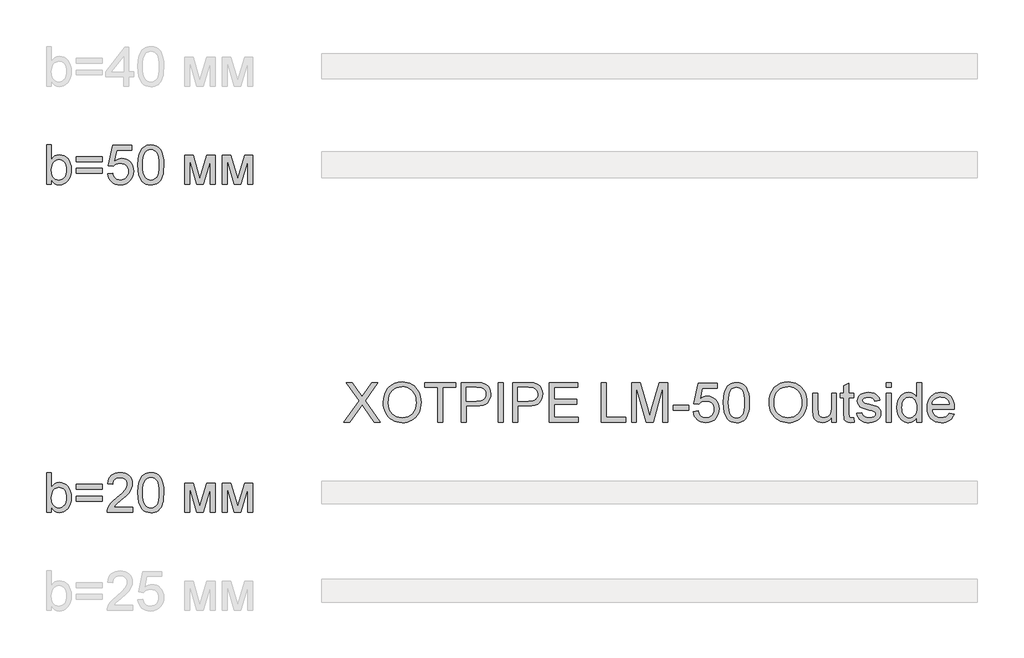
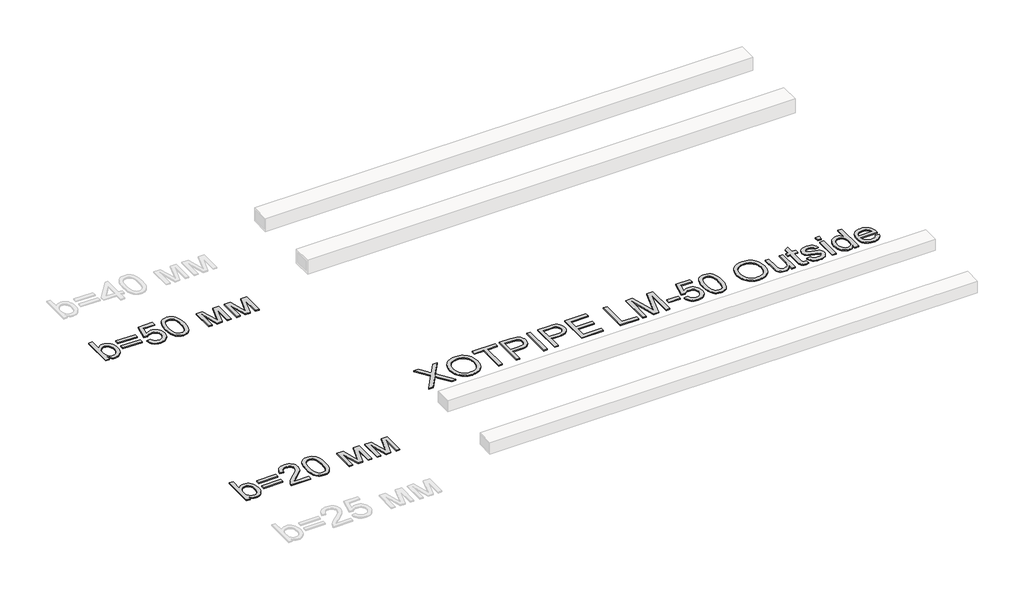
# One storey, part 70 of 86: 3 proxies.
"""IFC4 building model written with IfcOpenShell, lengths in millimetres."""

import ifcopenshell
import ifcopenshell.guid

model = None  # the IFC model being written
_history = None  # IfcOwnerHistory: only IFC2X3 demands one
_inside = {}  # id of a spatial element -> (the spatial element, [elements in it])
_under = {}  # id of a project, library or spatial element -> (it, [spatial elements below it])
_declared = {}  # id of a project -> (the project, [libraries it declares])
_typed = {}  # id of a type object -> (the type object, [elements of that type])
_made_of = {}  # id of a material, layer set ... -> (it, [elements and type objects made of it])


def new_model(schema):
    """Start an empty IFC model of exactly this schema.

    Asked for "IFC4X3", IfcOpenShell would pick the latest addendum, in which some entities
    have other attributes; the version numbers below select the first issue.
    IFC2X3 requires an IfcOwnerHistory on every rooted entity: one is made here for all.
    """
    global model, _history
    if schema == "IFC4X3":
        model = ifcopenshell.file(schema_version=(4, 3, 0, 0))
    else:
        model = ifcopenshell.file(schema=schema)
    _inside.clear()
    _under.clear()
    _declared.clear()
    _typed.clear()
    _made_of.clear()
    _history = None
    if model.schema == "IFC2X3":
        org = make("IfcOrganization", Name="unknown")
        user = make(
            "IfcPersonAndOrganization",
            ThePerson=make("IfcPerson", FamilyName="unknown"),
            TheOrganization=org,
        )
        app = make(
            "IfcApplication",
            ApplicationDeveloper=org,
            Version="unknown",
            ApplicationFullName="unknown",
            ApplicationIdentifier="unknown",
        )
        _history = make(
            "IfcOwnerHistory",
            OwningUser=user,
            OwningApplication=app,
            ChangeAction="ADDED",
            CreationDate=0,
        )
    return model


def make(cls, **values):
    """One entity of the class cls with the attributes given. An attribute that is None is left unset."""
    return model.create_entity(
        cls, **{name: value for name, value in values.items() if value is not None}
    )


def rooted(cls, **values):
    """An entity with a GlobalId (a new one), such as an element, a storey or a relation."""
    return make(cls, GlobalId=ifcopenshell.guid.new(), OwnerHistory=_history, **values)


def si_unit(unit_type, name, prefix=None):
    """IfcSIUnit, for example si_unit("LENGTHUNIT", "METRE", prefix="MILLI")."""
    return make("IfcSIUnit", UnitType=unit_type, Prefix=prefix, Name=name)


def assignment(units):
    """IfcUnitAssignment: the units of a project."""
    return None if units is None else make("IfcUnitAssignment", Units=units)


def point(xyz):
    """IfcCartesianPoint."""
    return None if xyz is None else make("IfcCartesianPoint", Coordinates=xyz)


def direction(xyz):
    """IfcDirection."""
    return None if xyz is None else make("IfcDirection", DirectionRatios=xyz)


def frame(location, z_axis=None, x_axis=None):
    """IfcAxis2Placement3D, a coordinate frame: its origin and axes. An axis left out is left unset."""
    return make(
        "IfcAxis2Placement3D",
        Location=point(location),
        Axis=direction(z_axis),
        RefDirection=direction(x_axis),
    )


def origin():
    """The frame at (0, 0, 0) with its axes left unset."""
    return frame((0.0, 0.0, 0.0))


def origin_with_axes():
    """The frame at (0, 0, 0) with the z axis (0, 0, 1) and the x axis (1, 0, 0) written out."""
    return frame((0.0, 0.0, 0.0), z_axis=(0.0, 0.0, 1.0), x_axis=(1.0, 0.0, 0.0))


def place(relative_to, where):
    """IfcLocalPlacement: puts the frame where relative to a parent placement (None: the world)."""
    return make(
        "IfcLocalPlacement", PlacementRelTo=relative_to, RelativePlacement=where
    )


def context(
    kind, dimensions, precision=None, world=None, true_north=None, identifier=None
):
    """IfcGeometricRepresentationContext, for example the 3D "Model" context."""
    return make(
        "IfcGeometricRepresentationContext",
        ContextIdentifier=identifier,
        ContextType=kind,
        CoordinateSpaceDimension=dimensions,
        Precision=precision,
        WorldCoordinateSystem=world,
        TrueNorth=true_north,
    )


def project(units=None, contexts=None):
    """IfcProject with its units and contexts."""
    return rooted(
        "IfcProject",
        Name="project",
        RepresentationContexts=contexts,
        UnitsInContext=assignment(units),
    )


def spatial(cls, under=None, at=None, **own):
    """A site, building, storey or space (cls), placed at a placement, below another one or the project."""
    s = rooted(cls, ObjectPlacement=at, **own)
    if under is not None:
        _under.setdefault(under.id(), (under, []))[1].append(s)
    return s


def polyline(points):
    """IfcPolyline through the points."""
    return make("IfcPolyline", Points=[point(p) for p in points])


def outline(outer, holes=None, kind="AREA"):
    """IfcArbitraryClosedProfileDef: a profile drawn as a closed curve; with holes, ...WithVoids."""
    if holes is None:
        return make("IfcArbitraryClosedProfileDef", ProfileType=kind, OuterCurve=outer)
    return make(
        "IfcArbitraryProfileDefWithVoids",
        ProfileType=kind,
        OuterCurve=outer,
        InnerCurves=holes,
    )


def extrude(swept, where, along, depth):
    """IfcExtrudedAreaSolid: the profile swept, set in the frame where, extruded along a direction by depth."""
    return make(
        "IfcExtrudedAreaSolid",
        SweptArea=swept,
        Position=where,
        ExtrudedDirection=direction(along),
        Depth=depth,
    )


def shape(context_of_items, identifier, shape_type, items):
    """IfcShapeRepresentation: the items that make up one representation, for example the "Body"."""
    return make(
        "IfcShapeRepresentation",
        ContextOfItems=context_of_items,
        RepresentationIdentifier=identifier,
        RepresentationType=shape_type,
        Items=items,
    )


def made_of(thing, what):
    """Note that an element or type object is made of a material, layer set ...; save() writes the relation."""
    if what is not None:
        _made_of.setdefault(what.id(), (what, []))[1].append(thing)
    return thing


def element(
    cls,
    number,
    at=None,
    inside=None,
    cuts=None,
    type_object=None,
    material=None,
    context=None,
    identifier="Body",
    shape_type=None,
    held_by="IfcProductDefinitionShape",
    body=None,
    shapes=None,
    **own,
):
    """One element of the class cls, such as IfcWall. Its Tag is "e" and its number.

    at: its placement. inside: the storey or other place that contains it. cuts: it is an
    opening in that element (IfcRelVoidsElement). A single representation is given by context,
    identifier, shape_type and body (its items); several are given by shapes. held_by: the class
    of the entity that holds the representations. save() writes the other relations.
    """
    e = rooted(cls, Tag="e%d" % number, ObjectPlacement=at, **own)
    if body is not None:
        shapes = [shape(context, identifier, shape_type, body)]
    if shapes is not None:
        e.Representation = make(held_by, Representations=shapes)
    if inside is not None:
        _inside.setdefault(inside.id(), (inside, []))[1].append(e)
    if cuts is not None:
        rooted(
            "IfcRelVoidsElement", RelatingBuildingElement=cuts, RelatedOpeningElement=e
        )
    if type_object is not None:
        _typed.setdefault(type_object.id(), (type_object, []))[1].append(e)
    return made_of(e, material)


def aggregate(whole, parts):
    """IfcRelAggregates: a whole, such as a stair, and the parts it consists of."""
    return rooted("IfcRelAggregates", RelatingObject=whole, RelatedObjects=parts)


def save(model, path):
    """Write the relations noted so far, then the file.

    IfcRelAggregates (storeys below a building ...), IfcRelContainedInSpatialStructure (elements
    in a storey), IfcRelDefinesByType, IfcRelAssociatesMaterial and IfcRelDeclares: one each for
    every whole, place, type object, material and project.
    """
    for whole, parts in _under.values():
        aggregate(whole, parts)
    for where, things in _inside.values():
        rooted(
            "IfcRelContainedInSpatialStructure",
            RelatedElements=things,
            RelatingStructure=where,
        )
    for kind, things in _typed.values():
        rooted("IfcRelDefinesByType", RelatedObjects=things, RelatingType=kind)
    for what, things in _made_of.values():
        rooted("IfcRelAssociatesMaterial", RelatedObjects=things, RelatingMaterial=what)
    for by, libraries in _declared.values():
        rooted("IfcRelDeclares", RelatingContext=by, RelatedDefinitions=libraries)
    model.write(path)


model = new_model("IFC4")

# Units and contexts
model_context = context("Model", 3, world=origin())
ifc_project = project(units=[si_unit("LENGTHUNIT", "METRE", prefix="MILLI")], contexts=[model_context])

# Site, building, storey
site = spatial("IfcSite", under=ifc_project)
building = spatial("IfcBuilding", under=site)
storey = spatial("IfcBuildingStorey", under=building, Name="Уровень 1", Elevation=0.0)

# Proxies
placement = place(None, origin())
element("IfcBuildingElementProxy", 1, Name="Текст модели 1", ObjectType="Текст модели 1", at=placement, inside=storey, context=model_context, shape_type="SweptSolid", body=[
    extrude(outline(polyline([(89771.0068445, 63169.2937088), (89695.6646119, 63169.2937088), (89695.6646119, 63772.0315697), (89771.0068445, 63772.0315697), (89771.0068445, 63548.5064694), (89795.7836969, 63580.3742473), (89823.7611226, 63603.1369457), (89854.9391217, 63616.7945648), (89889.3176942, 63621.3471045), (89928.1292447, 63617.2452202), (89964.8070796, 63604.9395675), (89997.2542716, 63585.2026984), (90023.3738932, 63558.8071653), (90043.8465263, 63526.0104854), (90059.3527524, 63487.0701762), (90069.1200193, 63443.6049185), (90072.375775, 63397.233393), (90069.0050562, 63343.7249568), (90058.8928999, 63296.6544555), (90042.039306, 63256.0218892), (90018.4442745, 63221.8272577), (89990.1219594, 63194.7235517), (89959.0865146, 63175.3637617), (89925.33794, 63163.7478877), (89888.8762358, 63159.8759297), (89853.3664262, 63164.8699278), (89821.8849245, 63179.8519221), (89794.4317306, 63204.8219125), (89771.0068445, 63239.7798991), (89771.0068445, 63169.2937088)]), holes=[polyline([(89771.0068445, 63393.7017259), (89776.1571925, 63330.8674811), (89782.5951274, 63307.065516), (89791.6082363, 63288.3403224), (89809.8643803, 63265.0993774), (89831.0819744, 63248.4987024), (89855.2610185, 63238.5382973), (89882.4015127, 63235.2181623), (89904.9342849, 63237.6645776), (89925.8851645, 63245.0038234), (89945.2541516, 63257.2358997), (89963.041246, 63274.3608066), (89977.9128757, 63296.3325588), (89988.5354683, 63323.105171), (89994.9090239, 63354.6786432), (89997.0335424, 63391.0529755), (89994.9963958, 63428.1170865), (89988.8849562, 63459.9940614), (89978.6992234, 63486.6839001), (89964.4391976, 63508.1866028), (89947.2912981, 63524.7320955), (89928.4419444, 63536.5503046), (89907.8911364, 63543.64123), (89885.6388742, 63546.0048719), (89863.106102, 63543.5584566), (89842.1552224, 63536.2192108), (89822.7862354, 63523.9871344), (89804.9991409, 63506.8622276), (89790.1275112, 63485.1112046), (89779.5049186, 63459.00078), (89773.1313631, 63428.5309538), (89771.0068445, 63393.7017259)])]), origin_with_axes(), (0.0, 0.0, 1.0), 20.0),
    extrude(outline(polyline([(90543.2647288, 63517.7515346), (90147.7180076, 63517.7515346), (90147.7180076, 63593.0937672), (90543.2647288, 63593.0937672), (90543.2647288, 63517.7515346)])), origin_with_axes(), (0.0, 0.0, 1.0), 20.0),
    extrude(outline(polyline([(90543.2647288, 63338.8137322), (90147.7180076, 63338.8137322), (90147.7180076, 63414.1559648), (90543.2647288, 63414.1559648), (90543.2647288, 63338.8137322)])), origin_with_axes(), (0.0, 0.0, 1.0), 20.0),
    extrude(outline(polyline([(90628.0247405, 63329.3959531), (90703.3669731, 63338.8137322), (90708.9955676, 63314.5933013), (90717.1993361, 63293.5826409), (90727.9782786, 63275.7817508), (90741.332395, 63261.1906312), (90757.2340943, 63249.8276761), (90775.6557852, 63241.7112795), (90796.5974677, 63236.8414416), (90820.059142, 63235.2181623), (90848.7539376, 63237.4760381), (90874.0642189, 63244.2496653), (90895.9899858, 63255.539044), (90914.5312383, 63271.3441743), (90929.2741093, 63290.8833067), (90939.8047314, 63313.3746922), (90946.1231047, 63338.8183307), (90948.2292291, 63367.2142222), (90946.2564619, 63394.0512138), (90940.3381603, 63417.9083611), (90930.4743243, 63438.7856644), (90916.6649539, 63456.6831234), (90898.8640639, 63471.0397183), (90877.0256689, 63481.2944289), (90851.1497691, 63487.4472553), (90821.2363644, 63489.4981974), (90784.6872881, 63486.2240476), (90755.0911816, 63476.4015984), (90731.4547634, 63461.3552248), (90712.7847522, 63442.409302), (90637.4425196, 63451.8270811), (90703.3669731, 63762.6137906), (90995.3181245, 63762.6137906), (90995.3181245, 63687.271558), (90764.2882315, 63687.271558), (90732.0617687, 63521.2832018), (90758.6504399, 63540.3394891), (90785.8829046, 63553.951123), (90813.7591628, 63562.1181032), (90842.2792145, 63564.84043), (90878.970845, 63561.4651127), (90912.6734343, 63551.3391608), (90943.3869823, 63534.4625743), (90971.1114892, 63510.8353531), (90994.0627272, 63481.9014342), (91010.4564686, 63449.1047543), (91020.2927134, 63412.4453135), (91023.5714617, 63371.9231117), (91020.6192087, 63332.8908321), (91011.7624497, 63296.5808791), (90997.0011846, 63262.993253), (90976.3354135, 63232.1279536), (90945.0286557, 63200.5176931), (90908.4979736, 63177.9389357), (90866.7433672, 63164.3916812), (90819.7648364, 63159.8759297), (90780.884308, 63162.777599), (90745.7653731, 63171.4826067), (90714.4080315, 63185.9909529), (90686.8122833, 63206.3026375), (90663.8518483, 63231.4059852), (90646.4004462, 63260.2893203), (90634.4580769, 63292.952643), (90628.0247405, 63329.3959531)])), origin_with_axes(), (0.0, 0.0, 1.0), 20.0),
    extrude(outline(polyline([(91089.4959153, 63465.8065969), (91095.0325393, 63562.2836501), (91101.9533193, 63603.1967265), (91111.6424114, 63639.2261694), (91124.0584287, 63670.6662845), (91139.1599846, 63697.8113772), (91156.9470791, 63720.6614476), (91177.4197121, 63739.2164957), (91200.6468616, 63753.5730906), (91226.6975054, 63763.8278012), (91255.5716435, 63769.9806276), (91287.2692759, 63772.0315697), (91333.6959837, 63767.1755274), (91375.2666491, 63752.6074004), (91410.0314977, 63728.8974058), (91436.0407547, 63696.6157607), (91455.6856533, 63656.0383766), (91471.3574262, 63607.4411651), (91481.6213339, 63545.7289604), (91485.0426365, 63465.8065969), (91479.5611947, 63369.8813667), (91472.7093926, 63329.106246), (91463.1168696, 63293.1227884), (91450.7974212, 63261.6688778), (91435.7648432, 63234.4823983), (91418.0191355, 63211.56335), (91397.560298, 63192.9117329), (91374.3055574, 63178.458569), (91348.1721402, 63168.1348805), (91319.1600463, 63161.9406674), (91287.2692759, 63159.8759297), (91245.7721868, 63163.4627792), (91208.9839873, 63174.2233275), (91176.9046773, 63192.1575748), (91149.5342569, 63217.265521), (91123.2674824, 63262.6529621), (91104.5055007, 63319.2056218), (91093.2483116, 63386.9235001), (91089.4959153, 63465.8065969)]), holes=[polyline([(91164.8381479, 63465.9537497), (91167.0454398, 63400.456959), (91173.6673158, 63347.440565), (91184.7037756, 63306.9045676), (91200.1548194, 63278.848967), (91218.8432248, 63259.7604899), (91239.5917693, 63246.1258635), (91262.400453, 63237.9450876), (91287.2692759, 63235.2181623), (91312.1380987, 63237.9542847), (91334.9467824, 63246.1626517), (91355.695327, 63259.8432634), (91374.3837323, 63278.9961198), (91389.8347761, 63307.0977057), (91400.871236, 63347.624506), (91407.4931119, 63400.5765206), (91409.7004039, 63465.9537497), (91407.5666883, 63529.7168965), (91401.1655416, 63581.79979), (91390.4969637, 63622.2024301), (91375.5609547, 63650.9248169), (91357.185249, 63670.9467945), (91336.1975812, 63685.248207), (91312.5979512, 63693.8290546), (91286.3863591, 63696.6893371), (91261.6462949, 63694.1693454), (91239.2238873, 63686.6093704), (91219.1191363, 63674.0094121), (91201.3320418, 63656.3694704), (91185.3659632, 63625.0995008), (91173.9616213, 63582.9402242), (91167.1190162, 63529.8916405), (91164.8381479, 63465.9537497)])]), origin_with_axes(), (0.0, 0.0, 1.0), 20.0),
    extrude(outline(polyline([(91805.2471251, 63611.9293254), (91934.8887402, 63611.9293254), (92034.8054901, 63257.5853876), (92142.5213382, 63611.9293254), (92266.7182998, 63611.9293254), (92266.7182998, 63169.2937088), (92191.3760672, 63169.2937088), (92191.3760672, 63525.6977857), (92083.0716078, 63169.2937088), (91984.1849275, 63169.2937088), (91880.5893577, 63542.7675103), (91880.5893577, 63169.2937088), (91805.2471251, 63169.2937088), (91805.2471251, 63611.9293254)])), origin_with_axes(), (0.0, 0.0, 1.0), 20.0),
    extrude(outline(polyline([(92379.7316487, 63611.9293254), (92509.3732638, 63611.9293254), (92609.2900137, 63257.5853876), (92717.0058619, 63611.9293254), (92841.2028235, 63611.9293254), (92841.2028235, 63169.2937088), (92765.8605909, 63169.2937088), (92765.8605909, 63525.6977857), (92657.5561315, 63169.2937088), (92558.6694512, 63169.2937088), (92455.0738813, 63542.7675103), (92455.0738813, 63169.2937088), (92379.7316487, 63169.2937088), (92379.7316487, 63611.9293254)])), origin_with_axes(), (0.0, 0.0, 1.0), 20.0),
])
element("IfcBuildingElementProxy", 2, Name="Текст модели 1", ObjectType="Текст модели 1", at=placement, inside=storey, context=model_context, shape_type="SweptSolid", body=[
    extrude(outline(polyline([(89771.0068445, 58169.2937088), (89695.6646119, 58169.2937088), (89695.6646119, 58772.0315697), (89771.0068445, 58772.0315697), (89771.0068445, 58548.5064694), (89795.7836969, 58580.3742473), (89823.7611226, 58603.1369457), (89854.9391217, 58616.7945648), (89889.3176942, 58621.3471045), (89928.1292447, 58617.2452202), (89964.8070796, 58604.9395675), (89997.2542716, 58585.2026984), (90023.3738932, 58558.8071653), (90043.8465263, 58526.0104854), (90059.3527524, 58487.0701762), (90069.1200193, 58443.6049185), (90072.375775, 58397.233393), (90069.0050562, 58343.7249568), (90058.8928999, 58296.6544555), (90042.039306, 58256.0218892), (90018.4442745, 58221.8272577), (89990.1219594, 58194.7235517), (89959.0865146, 58175.3637617), (89925.33794, 58163.7478877), (89888.8762358, 58159.8759297), (89853.3664262, 58164.8699278), (89821.8849245, 58179.8519221), (89794.4317306, 58204.8219125), (89771.0068445, 58239.7798991), (89771.0068445, 58169.2937088)]), holes=[polyline([(89771.0068445, 58393.7017259), (89776.1571925, 58330.8674811), (89782.5951274, 58307.065516), (89791.6082363, 58288.3403224), (89809.8643803, 58265.0993774), (89831.0819744, 58248.4987024), (89855.2610185, 58238.5382973), (89882.4015127, 58235.2181623), (89904.9342849, 58237.6645776), (89925.8851645, 58245.0038234), (89945.2541516, 58257.2358997), (89963.041246, 58274.3608066), (89977.9128757, 58296.3325588), (89988.5354683, 58323.105171), (89994.9090239, 58354.6786432), (89997.0335424, 58391.0529755), (89994.9963958, 58428.1170865), (89988.8849562, 58459.9940614), (89978.6992234, 58486.6839001), (89964.4391976, 58508.1866028), (89947.2912981, 58524.7320955), (89928.4419444, 58536.5503046), (89907.8911364, 58543.64123), (89885.6388742, 58546.0048719), (89863.106102, 58543.5584566), (89842.1552224, 58536.2192108), (89822.7862354, 58523.9871344), (89804.9991409, 58506.8622276), (89790.1275112, 58485.1112046), (89779.5049186, 58459.00078), (89773.1313631, 58428.5309538), (89771.0068445, 58393.7017259)])]), origin_with_axes(), (0.0, 0.0, 1.0), 20.0),
    extrude(outline(polyline([(90543.2647288, 58517.7515346), (90147.7180076, 58517.7515346), (90147.7180076, 58593.0937672), (90543.2647288, 58593.0937672), (90543.2647288, 58517.7515346)])), origin_with_axes(), (0.0, 0.0, 1.0), 20.0),
    extrude(outline(polyline([(90543.2647288, 58338.8137322), (90147.7180076, 58338.8137322), (90147.7180076, 58414.1559648), (90543.2647288, 58414.1559648), (90543.2647288, 58338.8137322)])), origin_with_axes(), (0.0, 0.0, 1.0), 20.0),
    extrude(outline(polyline([(91014.1536826, 58244.6359414), (91014.1536826, 58169.2937088), (90618.6069614, 58169.2937088), (90620.2624304, 58195.8180007), (90626.7003653, 58221.2386465), (90645.2784061, 58261.8344247), (90672.4648855, 58301.2161923), (90711.7914708, 58342.4373698), (90766.7898291, 58388.5513779), (90848.09175, 58460.7666136), (90896.8729026, 58514.0727147), (90911.1007387, 58535.8513288), (90921.2634789, 58557.3356373), (90927.3611229, 58578.5256402), (90929.393671, 58599.4213376), (90927.4760861, 58619.0800317), (90921.7233314, 58637.1476362), (90912.1354069, 58653.624151), (90898.7123126, 58668.5095763), (90882.1990095, 58680.8382216), (90863.3404587, 58689.6443969), (90842.1366602, 58694.928102), (90818.587614, 58696.6893371), (90793.778572, 58694.9694888), (90771.5906891, 58689.8099438), (90752.0239655, 58681.2107021), (90735.0784011, 58669.1717638), (90721.3701983, 58654.0977991), (90711.5155593, 58636.3934781), (90705.5144843, 58616.0588008), (90703.3669731, 58593.0937672), (90628.0247405, 58602.5115463), (90634.5040621, 58641.4058703), (90646.2900816, 58675.3889696), (90663.3827988, 58704.4608442), (90685.7822137, 58728.6214943), (90712.9732917, 58747.6134023), (90744.4409979, 58761.1790508), (90780.1853322, 58769.31844), (90820.2062948, 58772.0315697), (90860.5859423, 58769.0149373), (90896.5234147, 58759.9650403), (90928.018712, 58744.8818785), (90955.0718342, 58723.7654519), (90976.7998646, 58698.1792592), (90992.3198862, 58669.6867986), (91001.6318992, 58638.2880704), (91004.7359036, 58603.9830743), (91001.3881774, 58567.9490329), (90991.3449989, 58532.5403908), (90973.5211163, 58496.5247435), (90946.8312775, 58458.6696862), (90904.2857248, 58413.4753831), (90838.8947001, 58355.4419984), (90752.2217021, 58282.9692453), (90718.2294057, 58244.6359414), (91014.1536826, 58244.6359414)])), origin_with_axes(), (0.0, 0.0, 1.0), 20.0),
    extrude(outline(polyline([(91089.4959153, 58465.8065969), (91095.0325393, 58562.2836501), (91101.9533193, 58603.1967265), (91111.6424114, 58639.2261694), (91124.0584287, 58670.6662845), (91139.1599846, 58697.8113772), (91156.9470791, 58720.6614476), (91177.4197121, 58739.2164957), (91200.6468616, 58753.5730906), (91226.6975054, 58763.8278012), (91255.5716435, 58769.9806276), (91287.2692759, 58772.0315697), (91333.6959837, 58767.1755274), (91375.2666491, 58752.6074004), (91410.0314977, 58728.8974058), (91436.0407547, 58696.6157607), (91455.6856533, 58656.0383766), (91471.3574262, 58607.4411651), (91481.6213339, 58545.7289604), (91485.0426365, 58465.8065969), (91479.5611947, 58369.8813667), (91472.7093926, 58329.106246), (91463.1168696, 58293.1227884), (91450.7974212, 58261.6688778), (91435.7648432, 58234.4823983), (91418.0191355, 58211.56335), (91397.560298, 58192.9117329), (91374.3055574, 58178.458569), (91348.1721402, 58168.1348805), (91319.1600463, 58161.9406674), (91287.2692759, 58159.8759297), (91245.7721868, 58163.4627792), (91208.9839873, 58174.2233275), (91176.9046773, 58192.1575748), (91149.5342569, 58217.265521), (91123.2674824, 58262.6529621), (91104.5055007, 58319.2056218), (91093.2483116, 58386.9235001), (91089.4959153, 58465.8065969)]), holes=[polyline([(91164.8381479, 58465.9537497), (91167.0454398, 58400.456959), (91173.6673158, 58347.440565), (91184.7037756, 58306.9045676), (91200.1548194, 58278.848967), (91218.8432248, 58259.7604899), (91239.5917693, 58246.1258635), (91262.400453, 58237.9450876), (91287.2692759, 58235.2181623), (91312.1380987, 58237.9542847), (91334.9467824, 58246.1626517), (91355.695327, 58259.8432634), (91374.3837323, 58278.9961198), (91389.8347761, 58307.0977057), (91400.871236, 58347.624506), (91407.4931119, 58400.5765206), (91409.7004039, 58465.9537497), (91407.5666883, 58529.7168965), (91401.1655416, 58581.79979), (91390.4969637, 58622.2024301), (91375.5609547, 58650.9248169), (91357.185249, 58670.9467945), (91336.1975812, 58685.248207), (91312.5979512, 58693.8290546), (91286.3863591, 58696.6893371), (91261.6462949, 58694.1693454), (91239.2238873, 58686.6093704), (91219.1191363, 58674.0094121), (91201.3320418, 58656.3694704), (91185.3659632, 58625.0995008), (91173.9616213, 58582.9402242), (91167.1190162, 58529.8916405), (91164.8381479, 58465.9537497)])]), origin_with_axes(), (0.0, 0.0, 1.0), 20.0),
    extrude(outline(polyline([(91805.2471251, 58611.9293254), (91934.8887402, 58611.9293254), (92034.8054901, 58257.5853876), (92142.5213382, 58611.9293254), (92266.7182998, 58611.9293254), (92266.7182998, 58169.2937088), (92191.3760672, 58169.2937088), (92191.3760672, 58525.6977857), (92083.0716078, 58169.2937088), (91984.1849275, 58169.2937088), (91880.5893577, 58542.7675103), (91880.5893577, 58169.2937088), (91805.2471251, 58169.2937088), (91805.2471251, 58611.9293254)])), origin_with_axes(), (0.0, 0.0, 1.0), 20.0),
    extrude(outline(polyline([(92379.7316487, 58611.9293254), (92509.3732638, 58611.9293254), (92609.2900137, 58257.5853876), (92717.0058619, 58611.9293254), (92841.2028235, 58611.9293254), (92841.2028235, 58169.2937088), (92765.8605909, 58169.2937088), (92765.8605909, 58525.6977857), (92657.5561315, 58169.2937088), (92558.6694512, 58169.2937088), (92455.0738813, 58542.7675103), (92455.0738813, 58169.2937088), (92379.7316487, 58169.2937088), (92379.7316487, 58611.9293254)])), origin_with_axes(), (0.0, 0.0, 1.0), 20.0),
])
element("IfcBuildingElementProxy", 3, Name="Текст модели 1", ObjectType="Текст модели 1", at=placement, inside=storey, context=model_context, shape_type="SweptSolid", body=[
    extrude(outline(polyline([(94231.1999655, 59543.2937088), (94463.5542337, 59871.7387541), (94268.8710818, 60146.0315697), (94359.2228998, 60146.0315697), (94468.8517344, 59991.6682845), (94495.0081443, 59952.5624284), (94505.7870867, 59931.4827901), (94549.0500094, 59992.6983541), (94657.5016215, 60146.0315697), (94749.1778147, 60146.0315697), (94554.4946629, 59870.8558373), (94786.848931, 59543.2937088), (94696.497113, 59543.2937088), (94541.6923695, 59761.6684611), (94509.4659067, 59806.9915229), (94474.0020823, 59757.2538772), (94322.8761587, 59543.2937088), (94231.1999655, 59543.2937088)])), origin_with_axes(), (0.0, 0.0, 1.0), 20.0),
    extrude(outline(polyline([(94833.9378264, 59836.7163882), (94838.9594157, 59907.4141106), (94854.0241834, 59970.000035), (94879.1321295, 60024.4741614), (94895.4522945, 60048.6693004), (94914.2832542, 60070.8364899), (94957.3714329, 60107.8546156), (95006.2905412, 60134.2961341), (95061.0405791, 60150.1610451), (95121.6215467, 60155.4493488), (95162.1713396, 60152.9661453), (95200.6793874, 60145.5165349), (95237.1456902, 60133.1005176), (95271.5702479, 60115.7180933), (95302.9873703, 60093.8934939), (95330.4313671, 60068.1509513), (95353.9022384, 60038.4904655), (95373.3999842, 60004.9120363), (95388.7222693, 59968.1790191), (95399.6667586, 59929.0547689), (95406.2334522, 59887.5392858), (95408.4223501, 59843.6325697), (95406.1184891, 59799.1464394), (95399.2069061, 59757.0699362), (95387.6876011, 59717.4030601), (95371.5605742, 59680.145811), (95351.2075028, 59646.2822733), (95327.0100646, 59616.7965314), (95298.9682595, 59591.6885853), (95267.0820875, 59570.9584348), (95232.6069461, 59554.7348388), (95196.7982324, 59543.146556), (95159.6559464, 59536.1935863), (95121.1800883, 59533.8759297), (95079.9221225, 59536.4373081), (95040.9082369, 59544.1214433), (95004.1384315, 59556.9283352), (94969.6127062, 59574.857984), (94938.2323721, 59597.2160122), (94910.8987398, 59623.3080427), (94887.6118095, 59653.1340755), (94868.3715812, 59686.6941105), (94853.3068135, 59722.64078), (94842.5462651, 59759.6267161), (94836.0899361, 59797.6519188), (94833.9378264, 59836.7163882)]), holes=[polyline([(94909.280059, 59835.9806242), (94913.046251, 59786.0314463), (94924.3448267, 59741.6924688), (94943.1757864, 59702.9636918), (94969.5391298, 59669.8451151), (95001.5862502, 59643.3208233), (95037.4685403, 59624.3749005), (95077.1860002, 59613.0073469), (95120.7386299, 59609.2181623), (95165.0362206, 59613.0441351), (95205.2227301, 59624.5220533), (95241.2981582, 59643.6519171), (95273.2625051, 59670.4337263), (95299.4327105, 59704.2512787), (95318.1257144, 59744.488372), (95329.3415167, 59791.145006), (95333.0801175, 59844.2211809), (95331.4798308, 59878.7009209), (95326.6789708, 59910.9181866), (95318.6775374, 59940.872978), (95307.4755306, 59968.5652952), (95293.1971107, 59993.6318547), (95275.9664377, 60015.7093729), (95255.7835118, 60034.7978499), (95232.6483328, 60050.8972857), (95207.2782707, 60063.6765866), (95180.3906954, 60072.8046586), (95151.9856068, 60078.2815018), (95122.063005, 60080.1071162), (95080.02329, 60076.5892446), (95041.0186015, 60066.0356298), (95005.0489394, 60048.446272), (94972.1143038, 60023.8211709), (94944.6243217, 59990.9739073), (94924.9886202, 59948.7180616), (94913.2071993, 59897.0536339), (94909.280059, 59835.9806242)])]), origin_with_axes(), (0.0, 0.0, 1.0), 20.0),
    extrude(outline(polyline([(95662.7023852, 59543.2937088), (95662.7023852, 60070.6893371), (95464.9290246, 60070.6893371), (95464.9290246, 60146.0315697), (95935.8179784, 60146.0315697), (95935.8179784, 60070.6893371), (95738.0446178, 60070.6893371), (95738.0446178, 59543.2937088), (95662.7023852, 59543.2937088)])), origin_with_axes(), (0.0, 0.0, 1.0), 20.0),
    extrude(outline(polyline([(96020.5779901, 59543.2937088), (96020.5779901, 60146.0315697), (96243.9559375, 60146.0315697), (96295.9744517, 60144.5968299), (96334.01345, 60140.2926106), (96374.1677697, 60129.5688504), (96407.221967, 60112.1128497), (96433.8382293, 60087.1336623), (96454.6787444, 60053.8403417), (96468.1432254, 60014.5689387), (96472.6313857, 59971.655504), (96469.6009578, 59934.6557723), (96460.509674, 59900.6174907), (96445.3575343, 59869.5406592), (96424.1445388, 59841.4252777), (96395.0220803, 59818.1199533), (96356.141552, 59801.473293), (96307.5029537, 59791.4852968), (96249.1062855, 59788.1559648), (96095.9202227, 59788.1559648), (96095.9202227, 59543.2937088), (96020.5779901, 59543.2937088)]), holes=[polyline([(96095.9202227, 59863.4981974), (96253.5208694, 59863.4981974), (96289.7572459, 59865.2272428), (96320.3282397, 59870.4143789), (96345.2338508, 59879.0596058), (96364.4740792, 59891.1629234), (96378.830674, 59906.4024351), (96389.0853846, 59924.456244), (96395.238211, 59945.3243502), (96397.2891531, 59969.0067536), (96392.4515049, 60002.8518972), (96377.9385602, 60031.39954), (96355.5529408, 60052.8838485), (96327.0972684, 60065.5389892), (96298.0345908, 60069.4017501), (96251.7550358, 60070.6893371), (96095.9202227, 60070.6893371), (96095.9202227, 59863.4981974)])]), origin_with_axes(), (0.0, 0.0, 1.0), 20.0),
    extrude(outline(polyline([(96585.6447347, 59543.2937088), (96585.6447347, 60146.0315697), (96660.9869673, 60146.0315697), (96660.9869673, 59543.2937088), (96585.6447347, 59543.2937088)])), origin_with_axes(), (0.0, 0.0, 1.0), 20.0),
    extrude(outline(polyline([(96811.6714325, 59543.2937088), (96811.6714325, 60146.0315697), (97035.04938, 60146.0315697), (97087.0678941, 60144.5968299), (97125.1068924, 60140.2926106), (97165.2612122, 60129.5688504), (97198.3154094, 60112.1128497), (97224.9316718, 60087.1336623), (97245.7721868, 60053.8403417), (97259.2366678, 60014.5689387), (97263.7248282, 59971.655504), (97260.6944002, 59934.6557723), (97251.6031164, 59900.6174907), (97236.4509768, 59869.5406592), (97215.2379812, 59841.4252777), (97186.1155228, 59818.1199533), (97147.2349944, 59801.473293), (97098.5963961, 59791.4852968), (97040.1997279, 59788.1559648), (96887.0136651, 59788.1559648), (96887.0136651, 59543.2937088), (96811.6714325, 59543.2937088)]), holes=[polyline([(96887.0136651, 59863.4981974), (97044.6143118, 59863.4981974), (97080.8506884, 59865.2272428), (97111.4216822, 59870.4143789), (97136.3272932, 59879.0596058), (97155.5675216, 59891.1629234), (97169.9241164, 59906.4024351), (97180.1788271, 59924.456244), (97186.3316534, 59945.3243502), (97188.3825956, 59969.0067536), (97183.5449473, 60002.8518972), (97169.0320026, 60031.39954), (97146.6463832, 60052.8838485), (97118.1907109, 60065.5389892), (97089.1280333, 60069.4017501), (97042.8484783, 60070.6893371), (96887.0136651, 60070.6893371), (96887.0136651, 59863.4981974)])]), origin_with_axes(), (0.0, 0.0, 1.0), 20.0),
    extrude(outline(polyline([(97367.320398, 59543.2937088), (97367.320398, 60146.0315697), (97800.5382355, 60146.0315697), (97800.5382355, 60070.6893371), (97442.6626306, 60070.6893371), (97442.6626306, 59891.7515346), (97781.7026774, 59891.7515346), (97781.7026774, 59816.409302), (97442.6626306, 59816.409302), (97442.6626306, 59618.6359414), (97809.9560146, 59618.6359414), (97809.9560146, 59543.2937088), (97367.320398, 59543.2937088)])), origin_with_axes(), (0.0, 0.0, 1.0), 20.0),
    extrude(outline(polyline([(98158.4138404, 59543.2937088), (98158.4138404, 60146.0315697), (98233.7560731, 60146.0315697), (98233.7560731, 59618.6359414), (98535.1250035, 59618.6359414), (98535.1250035, 59543.2937088), (98158.4138404, 59543.2937088)])), origin_with_axes(), (0.0, 0.0, 1.0), 20.0),
    extrude(outline(polyline([(98619.8850152, 59543.2937088), (98619.8850152, 60146.0315697), (98749.5266303, 60146.0315697), (98872.8406751, 59721.2014417), (98897.7094979, 59632.4683044), (98924.63846, 59728.5590816), (99045.8923656, 60146.0315697), (99175.5339807, 60146.0315697), (99175.5339807, 59543.2937088), (99100.1917481, 59543.2937088), (99100.1917481, 60070.6893371), (98948.7715189, 59543.2937088), (98846.647477, 59543.2937088), (98695.2272478, 60070.6893371), (98695.2272478, 59543.2937088), (98619.8850152, 59543.2937088)])), origin_with_axes(), (0.0, 0.0, 1.0), 20.0),
    extrude(outline(polyline([(99260.2939924, 59722.2315113), (99260.2939924, 59797.5737439), (99495.7384693, 59797.5737439), (99495.7384693, 59722.2315113), (99260.2939924, 59722.2315113)])), origin_with_axes(), (0.0, 0.0, 1.0), 20.0),
    extrude(outline(polyline([(99561.6629228, 59703.3959531), (99637.0051555, 59712.8137322), (99642.63375, 59688.5933013), (99650.8375185, 59667.5826409), (99661.6164609, 59649.7817508), (99674.9705774, 59635.1906312), (99690.8722766, 59623.8276761), (99709.2939675, 59615.7112795), (99730.2356501, 59610.8414416), (99753.6973243, 59609.2181623), (99782.3921199, 59611.4760381), (99807.7024012, 59618.2496653), (99829.6281681, 59629.539044), (99848.1694207, 59645.3441743), (99862.9122916, 59664.8833067), (99873.4429138, 59687.3746922), (99879.761287, 59712.8183307), (99881.8674114, 59741.2142222), (99879.8946442, 59768.0512138), (99873.9763426, 59791.9083611), (99864.1125067, 59812.7856644), (99850.3031363, 59830.6831234), (99832.5022462, 59845.0397183), (99810.6638513, 59855.2944289), (99784.7879514, 59861.4472553), (99754.8745467, 59863.4981974), (99718.3254705, 59860.2240476), (99688.729364, 59850.4015984), (99665.0929458, 59835.3552248), (99646.4229345, 59816.409302), (99571.0807019, 59825.8270811), (99637.0051555, 60136.6137906), (99928.9563068, 60136.6137906), (99928.9563068, 60061.271558), (99697.9264139, 60061.271558), (99665.6999511, 59895.2832018), (99692.2886223, 59914.3394891), (99719.521087, 59927.951123), (99747.3973452, 59936.1181032), (99775.9173968, 59938.84043), (99812.6090273, 59935.4651127), (99846.3116166, 59925.3391608), (99877.0251647, 59908.4625743), (99904.7496715, 59884.8353531), (99927.7009095, 59855.9014342), (99944.0946509, 59823.1047543), (99953.9308958, 59786.4453135), (99957.2096441, 59745.9231117), (99954.257391, 59706.8908321), (99945.400632, 59670.5808791), (99930.639367, 59636.993253), (99909.9735959, 59606.1279536), (99878.6668381, 59574.5176931), (99842.136156, 59551.9389357), (99800.3815495, 59538.3916812), (99753.4030187, 59533.8759297), (99714.5224904, 59536.777599), (99679.4035554, 59545.4826067), (99648.0462138, 59559.9909529), (99620.4504657, 59580.3026375), (99597.4900306, 59605.4059852), (99580.0386285, 59634.2893203), (99568.0962592, 59666.952643), (99561.6629228, 59703.3959531)])), origin_with_axes(), (0.0, 0.0, 1.0), 20.0),
    extrude(outline(polyline([(100023.1340976, 59839.8065969), (100028.6707216, 59936.2836501), (100035.5915017, 59977.1967265), (100045.2805937, 60013.2261694), (100057.696611, 60044.6662845), (100072.7981669, 60071.8113772), (100090.5852614, 60094.6614476), (100111.0578944, 60113.2164957), (100134.2850439, 60127.5730906), (100160.3356877, 60137.8278012), (100189.2098258, 60143.9806276), (100220.9074582, 60146.0315697), (100267.334166, 60141.1755274), (100308.9048314, 60126.6074004), (100343.66968, 60102.8974058), (100369.678937, 60070.6157607), (100389.3238356, 60030.0383766), (100404.9956086, 59981.4411651), (100415.2595163, 59919.7289604), (100418.6808188, 59839.8065969), (100413.1993771, 59743.8813667), (100406.3475749, 59703.106246), (100396.7550519, 59667.1227884), (100384.4356036, 59635.6688778), (100369.4030256, 59608.4823983), (100351.6573178, 59585.56335), (100331.1984804, 59566.9117329), (100307.9437397, 59552.458569), (100281.8103225, 59542.1348805), (100252.7982287, 59535.9406674), (100220.9074582, 59533.8759297), (100179.4103691, 59537.4627792), (100142.6221696, 59548.2233275), (100110.5428596, 59566.1575748), (100083.1724392, 59591.265521), (100056.9056647, 59636.6529621), (100038.143683, 59693.2056218), (100026.8864939, 59760.9235001), (100023.1340976, 59839.8065969)]), holes=[polyline([(100098.4763302, 59839.9537497), (100100.6836222, 59774.456959), (100107.3054981, 59721.440565), (100118.3419579, 59680.9045676), (100133.7930017, 59652.848967), (100152.4814071, 59633.7604899), (100173.2299516, 59620.1258635), (100196.0386353, 59611.9450876), (100220.9074582, 59609.2181623), (100245.7762811, 59611.9542847), (100268.5849648, 59620.1626517), (100289.3335093, 59633.8432634), (100308.0219147, 59652.9961198), (100323.4729585, 59681.0977057), (100334.5094183, 59721.624506), (100341.1312942, 59774.5765206), (100343.3385862, 59839.9537497), (100341.2048706, 59903.7168965), (100334.8037239, 59955.79979), (100324.135146, 59996.2024301), (100309.199137, 60024.9248169), (100290.8234314, 60044.9467945), (100269.8357636, 60059.248207), (100246.2361336, 60067.8290546), (100220.0245414, 60070.6893371), (100195.2844772, 60068.1693454), (100172.8620696, 60060.6093704), (100152.7573186, 60048.0094121), (100134.9702241, 60030.3694704), (100119.0041455, 59999.0995008), (100107.5998037, 59956.9402242), (100100.7571986, 59903.8916405), (100098.4763302, 59839.9537497)])]), origin_with_axes(), (0.0, 0.0, 1.0), 20.0),
    extrude(outline(polyline([(100720.0497493, 59836.7163882), (100725.0713385, 59907.4141106), (100740.1361062, 59970.000035), (100765.2440524, 60024.4741614), (100781.5642174, 60048.6693004), (100800.395177, 60070.8364899), (100843.4833557, 60107.8546156), (100892.402464, 60134.2961341), (100947.1525019, 60150.1610451), (101007.7334695, 60155.4493488), (101048.2832624, 60152.9661453), (101086.7913102, 60145.5165349), (101123.257613, 60133.1005176), (101157.6821707, 60115.7180933), (101189.0992931, 60093.8934939), (101216.5432899, 60068.1509513), (101240.0141612, 60038.4904655), (101259.511907, 60004.9120363), (101274.8341921, 59968.1790191), (101285.7786814, 59929.0547689), (101292.3453751, 59887.5392858), (101294.5342729, 59843.6325697), (101292.2304119, 59799.1464394), (101285.3188289, 59757.0699362), (101273.799524, 59717.4030601), (101257.672497, 59680.145811), (101237.3194256, 59646.2822733), (101213.1219874, 59616.7965314), (101185.0801823, 59591.6885853), (101153.1940104, 59570.9584348), (101118.7188689, 59554.7348388), (101082.9101552, 59543.146556), (101045.7678693, 59536.1935863), (101007.2920111, 59533.8759297), (100966.0340453, 59536.4373081), (100927.0201597, 59544.1214433), (100890.2503543, 59556.9283352), (100855.7246291, 59574.857984), (100824.3442949, 59597.2160122), (100797.0106626, 59623.3080427), (100773.7237324, 59653.1340755), (100754.483504, 59686.6941105), (100739.4187363, 59722.64078), (100728.6581879, 59759.6267161), (100722.2018589, 59797.6519188), (100720.0497493, 59836.7163882)]), holes=[polyline([(100795.3919819, 59835.9806242), (100799.1581738, 59786.0314463), (100810.4567496, 59741.6924688), (100829.2877092, 59702.9636918), (100855.6510527, 59669.8451151), (100887.698173, 59643.3208233), (100923.5804631, 59624.3749005), (100963.297923, 59613.0073469), (101006.8505527, 59609.2181623), (101051.1481434, 59613.0441351), (101091.3346529, 59624.5220533), (101127.410081, 59643.6519171), (101159.3744279, 59670.4337263), (101185.5446333, 59704.2512787), (101204.2376372, 59744.488372), (101215.4534395, 59791.145006), (101219.1920403, 59844.2211809), (101217.5917536, 59878.7009209), (101212.7908936, 59910.9181866), (101204.7894602, 59940.872978), (101193.5874534, 59968.5652952), (101179.3090335, 59993.6318547), (101162.0783606, 60015.7093729), (101141.8954346, 60034.7978499), (101118.7602556, 60050.8972857), (101093.3901935, 60063.6765866), (101066.5026182, 60072.8046586), (101038.0975297, 60078.2815018), (101008.1749279, 60080.1071162), (100966.1352129, 60076.5892446), (100927.1305243, 60066.0356298), (100891.1608623, 60048.446272), (100858.2262266, 60023.8211709), (100830.7362446, 59990.9739073), (100811.1005431, 59948.7180616), (100799.3191222, 59897.0536339), (100795.3919819, 59835.9806242)])]), origin_with_axes(), (0.0, 0.0, 1.0), 20.0),
    extrude(outline(polyline([(101671.245436, 59543.2937088), (101671.245436, 59619.3717054), (101643.9853801, 59581.9673035), (101612.237164, 59555.2498736), (101576.0007874, 59539.2194157), (101535.2762506, 59533.8759297), (101498.5800215, 59537.6283261), (101464.4221783, 59548.8855151), (101435.7641709, 59565.8080869), (101415.5674493, 59586.5566314), (101401.9742096, 59611.7565481), (101393.1266476, 59642.0332363), (101388.7120637, 59712.0779682), (101388.7120637, 59985.9293254), (101464.0542963, 59985.9293254), (101464.0542963, 59747.5417925), (101465.1947305, 59699.8642859), (101468.616033, 59670.7280319), (101479.5973106, 59645.105051), (101498.4144746, 59625.6256993), (101523.8167264, 59613.3200466), (101554.5532671, 59609.2181623), (101587.0556414, 59613.4120171), (101617.4610883, 59625.9935813), (101642.5322463, 59645.8040268), (101659.0317537, 59671.6845251), (101668.1920154, 59707.1299554), (101671.245436, 59755.6351964), (101671.245436, 59985.9293254), (101746.5876686, 59985.9293254), (101746.5876686, 59543.2937088), (101671.245436, 59543.2937088)])), origin_with_axes(), (0.0, 0.0, 1.0), 20.0),
    extrude(outline(polyline([(102010.2854827, 59606.1279536), (102019.7032618, 59541.0864168), (101963.3437402, 59533.8759297), (101927.18094, 59537.0029267), (101900.2151898, 59546.3839176), (101881.1589024, 59560.84168), (101868.724491, 59579.1989915), (101861.8818859, 59610.7264785), (101859.6010175, 59664.6947672), (101859.6010175, 59910.5870928), (101803.0943431, 59910.5870928), (101803.0943431, 59985.9293254), (101859.6010175, 59985.9293254), (101859.6010175, 60093.4980208), (101934.9432501, 60137.791013), (101934.9432501, 59985.9293254), (102010.2854827, 59985.9293254), (102010.2854827, 59910.5870928), (101934.9432501, 59910.5870928), (101934.9432501, 59666.9020592), (101938.9163757, 59628.0537205), (101951.7922455, 59614.2949339), (101962.6631585, 59610.4873552), (101977.4704088, 59609.2181623), (102010.2854827, 59606.1279536)])), origin_with_axes(), (0.0, 0.0, 1.0), 20.0),
    extrude(outline(polyline([(102057.3743781, 59675.1426159), (102132.7166107, 59684.5603949), (102137.2691504, 59667.3803058), (102144.5991992, 59652.3339322), (102154.706757, 59639.4212741), (102167.5918239, 59628.6423317), (102183.291188, 59620.1442576), (102201.8416376, 59614.0742047), (102247.4957932, 59609.2181623), (102292.5981258, 59613.6695345), (102310.1277029, 59619.2337497), (102324.3095538, 59627.0236509), (102343.0715356, 59646.3742438), (102347.762031, 59657.2083686), (102349.3255295, 59668.8150456), (102347.752834, 59678.9869827), (102343.0347474, 59688.0184857), (102324.162401, 59702.6601891), (102295.945852, 59712.225121), (102246.6128764, 59724.1444976), (102177.8557315, 59744.0285195), (102133.1580691, 59761.0062735), (102104.4448794, 59779.529132), (102083.6411526, 59804.048467), (102071.004406, 59833.00078), (102066.7921572, 59864.8225726), (102070.1766716, 59894.0140089), (102080.3302146, 59920.961365), (102096.3330814, 59944.5977832), (102117.2655669, 59963.8564057), (102138.0692938, 59975.9781174), (102165.1638027, 59986.1500546), (102196.4889546, 59993.047842), (102229.9846103, 59995.3471045), (102279.0232802, 59991.6498904), (102321.6608035, 59980.5582483), (102355.9474054, 59963.1574299), (102379.9333115, 59940.5326872), (102395.8258137, 59911.0101571), (102405.832204, 59872.9159765), (102330.4899713, 59863.4981974), (102320.9802218, 59887.208192), (102302.1630577, 59905.0688629), (102273.8545382, 59916.2708696), (102235.8707222, 59920.0048719), (102192.6077995, 59916.4364165), (102163.7658511, 59905.7310504), (102147.5422551, 59890.2800066), (102142.1343898, 59872.4745181), (102144.37847, 59860.8862352), (102151.1107105, 59850.5487512), (102162.6254169, 59841.3149131), (102179.2168949, 59833.920485), (102244.1112789, 59817.88083), (102354.6966066, 59782.4170057), (102383.906437, 59765.4576457), (102406.0529331, 59742.2442918), (102420.0140549, 59712.7033676), (102424.6677621, 59676.7612966), (102419.2047145, 59639.6052151), (102402.8155716, 59604.6564256), (102376.1257328, 59574.6556489), (102339.7605976, 59552.3436059), (102295.8354874, 59538.4928488), (102246.4657236, 59533.8759297), (102205.9159307, 59536.1016158), (102170.4980916, 59542.778674), (102140.2122064, 59553.9071044), (102115.058275, 59569.4869069), (102094.5120655, 59589.4445051), (102078.0493462, 59613.7063227), (102065.6701171, 59642.2723596), (102057.3743781, 59675.1426159)])), origin_with_axes(), (0.0, 0.0, 1.0), 20.0),
    extrude(outline(polyline([(102509.4277738, 60070.6893371), (102509.4277738, 60146.0315697), (102584.7700064, 60146.0315697), (102584.7700064, 60070.6893371), (102509.4277738, 60070.6893371)])), origin_with_axes(), (0.0, 0.0, 1.0), 20.0),
    extrude(outline(polyline([(102509.4277738, 59543.2937088), (102509.4277738, 59985.9293254), (102584.7700064, 59985.9293254), (102584.7700064, 59543.2937088), (102509.4277738, 59543.2937088)])), origin_with_axes(), (0.0, 0.0, 1.0), 20.0),
    extrude(outline(polyline([(102970.8989485, 59543.2937088), (102970.8989485, 59614.3685103), (102948.3569793, 59579.1530063), (102921.0509382, 59553.9990749), (102888.9808253, 59538.906716), (102852.1466405, 59533.8759297), (102827.2778176, 59535.6969456), (102803.4390643, 59541.1599932), (102780.6303806, 59550.2650726), (102758.8517665, 59563.0121837), (102738.7838037, 59579.0196491), (102721.1070738, 59597.905791), (102705.8215769, 59619.6706095), (102692.927313, 59644.3141047), (102682.6909965, 59671.3672269), (102675.3793418, 59700.3609266), (102669.5300181, 59764.1700587), (102674.9194893, 59827.1882445), (102691.087903, 59884.0995891), (102703.2096148, 59909.4558556), (102718.0168651, 59931.6667311), (102735.5096539, 59950.7322155), (102755.6879814, 59966.6523088), (102777.839076, 59979.2062819), (102801.2501665, 59988.1734056), (102825.9212528, 59993.5536797), (102851.8523349, 59995.3471045), (102888.7141108, 59990.2151506), (102921.3084556, 59974.8192891), (102948.9363934, 59951.2196592), (102970.8989485, 59921.4763998), (102970.8989485, 60146.0315697), (103046.2411812, 60146.0315697), (103046.2411812, 59543.2937088), (102970.8989485, 59543.2937088)]), holes=[polyline([(102744.8722507, 59764.4643643), (102746.9967692, 59727.9290837), (102753.3703248, 59696.3142247), (102763.9929174, 59669.6197874), (102778.8645471, 59647.8457718), (102796.6240504, 59630.9461927), (102815.910264, 59618.8750647), (102836.7231879, 59611.6323879), (102859.062822, 59609.2181623), (102881.5082222, 59611.5220233), (102902.1969859, 59618.4336063), (102921.1291131, 59629.9529113), (102938.3046038, 59646.0799383), (102952.5646296, 59666.9434459), (102962.7503624, 59692.6721929), (102968.861802, 59723.2661794), (102970.8989485, 59758.7254052), (102968.8250138, 59797.601335), (102962.6032096, 59830.9406408), (102952.2335358, 59858.7433226), (102937.7159926, 59881.0093804), (102920.1634229, 59898.0699079), (102900.6886698, 59910.255999), (102879.2917332, 59917.5676536), (102855.9726133, 59920.0048719), (102833.1915207, 59917.6642227), (102812.3785968, 59910.6422751), (102793.5338416, 59898.9390291), (102776.6572551, 59882.5544848), (102762.7513157, 59861.1299571), (102752.8185018, 59834.3067611), (102746.8588135, 59802.0848968), (102744.8722507, 59764.4643643)])]), origin_with_axes(), (0.0, 0.0, 1.0), 20.0),
    extrude(outline(polyline([(103469.1583228, 59675.1426159), (103543.0290274, 59665.7248368), (103531.7028605, 59636.1379273), (103516.4127651, 59610.0642909), (103497.1587412, 59587.5039276), (103473.9407887, 59568.4568373), (103446.9980311, 59553.3276902), (103416.5695916, 59542.5211566), (103382.6554702, 59536.0372364), (103345.2556668, 59533.8759297), (103298.5070623, 59537.6053334), (103256.8536234, 59548.7935446), (103220.2953501, 59567.4405633), (103188.8322425, 59593.5463893), (103163.5311583, 59626.3844559), (103145.4589553, 59665.2281961), (103134.6156334, 59710.0776098), (103131.0011928, 59760.9326971), (103134.6524216, 59813.5122313), (103145.6061081, 59859.8561656), (103163.8622521, 59899.9645002), (103189.4208537, 59933.8372349), (103220.8011879, 59960.7478028), (103256.5225296, 59979.9696371), (103296.5848789, 59991.5027376), (103340.9882357, 59995.3471045), (103383.9614513, 59991.5119347), (103422.8235855, 59980.0064253), (103457.5746385, 59960.8305763), (103488.2146102, 59933.9843877), (103513.2259873, 59900.1852294), (103531.0912567, 59860.1504712), (103541.8104183, 59813.8801133), (103545.3834722, 59761.3741555), (103544.9420138, 59741.0670694), (103206.3434255, 59741.0670694), (103210.7074256, 59711.0019134), (103219.3848422, 59684.6707595), (103232.3756751, 59662.073608), (103249.6799245, 59643.2104587), (103270.341097, 59628.338829), (103293.4026996, 59617.7162364), (103318.8647322, 59611.3426809), (103346.7271948, 59609.2181623), (103386.8263323, 59613.1544997), (103420.5978994, 59624.9635117), (103448.0418963, 59645.3809625), (103469.1583228, 59675.1426159)]), holes=[polyline([(103206.3434255, 59816.409302), (103470.0412396, 59816.409302), (103459.8509083, 59856.2141339), (103451.0861198, 59871.8675128), (103439.874916, 59884.6882003), (103419.3287066, 59900.1392441), (103395.9498058, 59911.175704), (103369.7382136, 59917.7975799), (103340.6939301, 59920.0048719), (103314.2018279, 59918.2436368), (103289.9078207, 59912.9599317), (103267.8119083, 59904.1537564), (103247.9140909, 59891.825111), (103231.2168469, 59876.5442127), (103218.7226546, 59858.8812784), (103210.4315141, 59838.8363081), (103206.3434255, 59816.409302)])]), origin_with_axes(), (0.0, 0.0, 1.0), 20.0),
])

save(model, "model.ifc")
